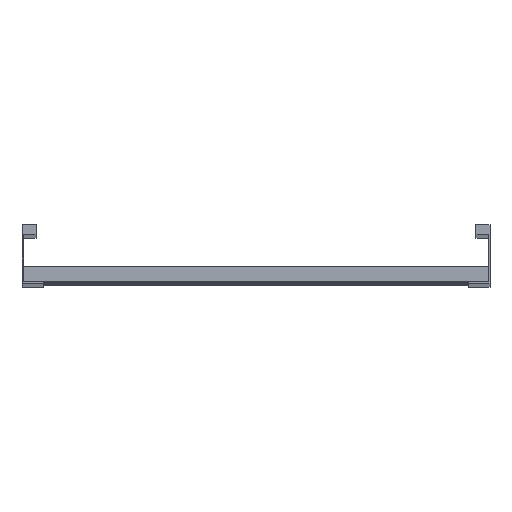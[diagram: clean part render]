
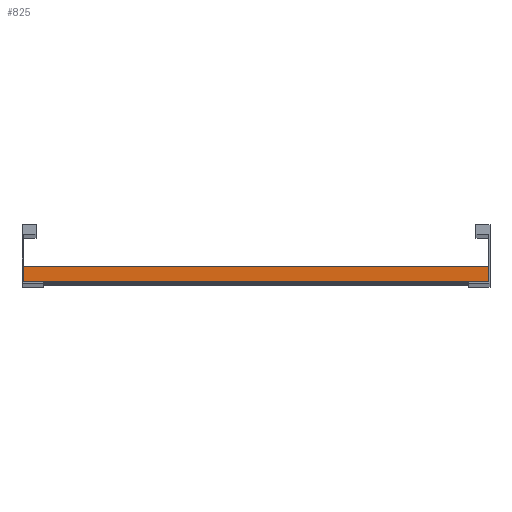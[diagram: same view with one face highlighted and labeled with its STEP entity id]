
A CAD part, top view. The second image highlights one B-rep face of the part: STEP entity #825.
In plain terms, the highlighted planar face has unit normal (0, 0, 1).
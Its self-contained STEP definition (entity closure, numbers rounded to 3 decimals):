
#42 = DIRECTION ( 'NONE',  ( 0., -1., 0. ) ) ;
#110 = DIRECTION ( 'NONE',  ( 0., 0., -1. ) ) ;
#115 = DIRECTION ( 'NONE',  ( 0., 1., 0. ) ) ;
#205 = AXIS2_PLACEMENT_3D ( 'NONE', #397, #110, #115 ) ;
#218 = CARTESIAN_POINT ( 'NONE',  ( 298., 0., 20.25 ) ) ;
#227 = CARTESIAN_POINT ( 'NONE',  ( 298., 0., 20.25 ) ) ;
#228 = DIRECTION ( 'NONE',  ( -1., 0., 0. ) ) ;
#238 = CARTESIAN_POINT ( 'NONE',  ( 298., 20., 20.25 ) ) ;
#244 = CARTESIAN_POINT ( 'NONE',  ( 298., 20., 20.25 ) ) ;
#334 = EDGE_CURVE ( 'NONE', #895, #1188, #558, .T. ) ;
#380 = CARTESIAN_POINT ( 'NONE',  ( -298., 20., 20.25 ) ) ;
#397 = CARTESIAN_POINT ( 'NONE',  ( 298., 20., 20.25 ) ) ;
#405 = VECTOR ( 'NONE', #914, 1000. ) ;
#482 = LINE ( 'NONE', #227, #1438 ) ;
#495 = CARTESIAN_POINT ( 'NONE',  ( 298., 20., 20.25 ) ) ;
#510 = ORIENTED_EDGE ( 'NONE', *, *, #1107, .F. ) ;
#558 = LINE ( 'NONE', #1102, #1611 ) ;
#726 = VECTOR ( 'NONE', #1574, 1000. ) ;
#764 = PLANE ( 'NONE',  #205 ) ;
#786 = VERTEX_POINT ( 'NONE', #495 ) ;
#798 = EDGE_CURVE ( 'NONE', #786, #895, #1068, .T. ) ;
#801 = ORIENTED_EDGE ( 'NONE', *, *, #917, .F. ) ;
#825 = ADVANCED_FACE ( 'NONE', ( #1305 ), #764, .F. ) ;
#869 = CARTESIAN_POINT ( 'NONE',  ( -298., 0., 20.25 ) ) ;
#895 = VERTEX_POINT ( 'NONE', #380 ) ;
#914 = DIRECTION ( 'NONE',  ( -1., 0., 0. ) ) ;
#917 = EDGE_CURVE ( 'NONE', #1544, #1188, #482, .T. ) ;
#1068 = LINE ( 'NONE', #238, #405 ) ;
#1102 = CARTESIAN_POINT ( 'NONE',  ( -298., 20., 20.25 ) ) ;
#1107 = EDGE_CURVE ( 'NONE', #786, #1544, #1591, .T. ) ;
#1188 = VERTEX_POINT ( 'NONE', #869 ) ;
#1305 = FACE_OUTER_BOUND ( 'NONE', #1716, .T. ) ;
#1438 = VECTOR ( 'NONE', #228, 1000. ) ;
#1507 = ORIENTED_EDGE ( 'NONE', *, *, #798, .T. ) ;
#1544 = VERTEX_POINT ( 'NONE', #218 ) ;
#1574 = DIRECTION ( 'NONE',  ( 0., -1., 0. ) ) ;
#1591 = LINE ( 'NONE', #244, #726 ) ;
#1611 = VECTOR ( 'NONE', #42, 1000. ) ;
#1638 = ORIENTED_EDGE ( 'NONE', *, *, #334, .T. ) ;
#1716 = EDGE_LOOP ( 'NONE', ( #1638, #801, #510, #1507 ) ) ;
